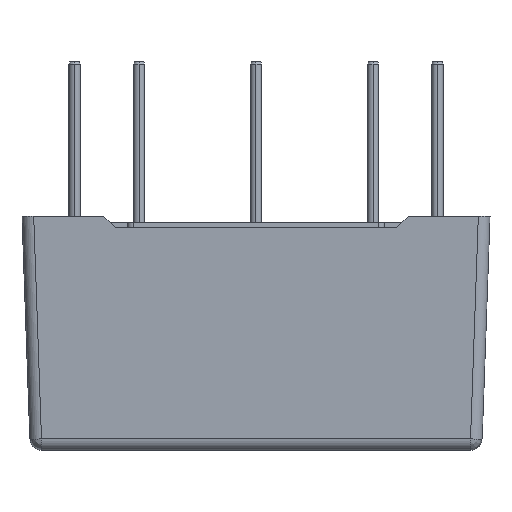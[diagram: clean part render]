
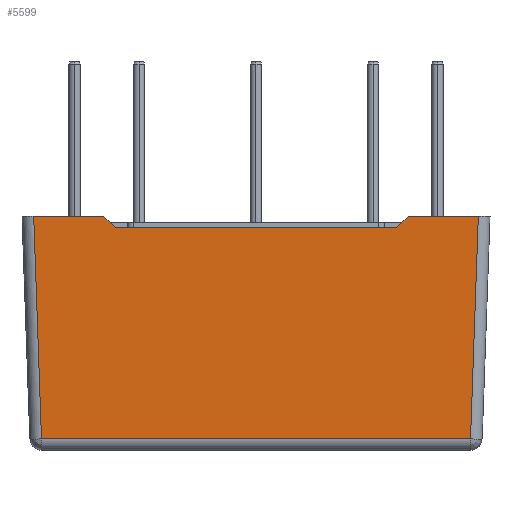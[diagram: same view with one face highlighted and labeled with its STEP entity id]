
A CAD part, left-side view. The second image highlights one B-rep face of the part: STEP entity #5599.
In plain terms, the highlighted planar face has unit normal (-0.999, 0, -0.035).
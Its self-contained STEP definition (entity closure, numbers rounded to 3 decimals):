
#517 = CARTESIAN_POINT ( 'NONE',  ( 0.698, 0., 0.012 ) ) ;
#755 = VECTOR ( 'NONE', #5980, 1000. ) ;
#825 = VECTOR ( 'NONE', #5468, 1000. ) ;
#971 = EDGE_CURVE ( 'NONE', #3416, #4916, #9168, .T. ) ;
#979 = VECTOR ( 'NONE', #2478, 1000. ) ;
#1093 = LINE ( 'NONE', #1445, #825 ) ;
#1125 = CARTESIAN_POINT ( 'NONE',  ( 0.035, 20., 19. ) ) ;
#1287 = ORIENTED_EDGE ( 'NONE', *, *, #7319, .F. ) ;
#1324 = PLANE ( 'NONE',  #2772 ) ;
#1355 = DIRECTION ( 'NONE',  ( -0.035, 0., 0.999 ) ) ;
#1445 = CARTESIAN_POINT ( 'NONE',  ( 0.665, 1.664, 0.965 ) ) ;
#1531 = ORIENTED_EDGE ( 'NONE', *, *, #5197, .T. ) ;
#1544 = VERTEX_POINT ( 'NONE', #1883 ) ;
#1749 = CARTESIAN_POINT ( 'NONE',  ( 0., 20., 20. ) ) ;
#1845 = VECTOR ( 'NONE', #8563, 1000. ) ;
#1883 = CARTESIAN_POINT ( 'NONE',  ( 0., 33., 20. ) ) ;
#2068 = VERTEX_POINT ( 'NONE', #9054 ) ;
#2072 = LINE ( 'NONE', #9561, #3688 ) ;
#2271 = DIRECTION ( 'NONE',  ( 0.025, -0.694, -0.719 ) ) ;
#2354 = CARTESIAN_POINT ( 'NONE',  ( 0.035, 32.034, 19. ) ) ;
#2478 = DIRECTION ( 'NONE',  ( 0., -1., 0. ) ) ;
#2555 = VERTEX_POINT ( 'NONE', #5559 ) ;
#2573 = CARTESIAN_POINT ( 'NONE',  ( 0., 20., 20. ) ) ;
#2597 = ORIENTED_EDGE ( 'NONE', *, *, #3113, .F. ) ;
#2772 = AXIS2_PLACEMENT_3D ( 'NONE', #517, #6217, #1355 ) ;
#3024 = VECTOR ( 'NONE', #2271, 1000. ) ;
#3113 = EDGE_CURVE ( 'NONE', #3546, #1544, #9269, .T. ) ;
#3162 = ORIENTED_EDGE ( 'NONE', *, *, #4129, .T. ) ;
#3389 = DIRECTION ( 'NONE',  ( 0., -1., 0. ) ) ;
#3416 = VERTEX_POINT ( 'NONE', #2354 ) ;
#3420 = LINE ( 'NONE', #4874, #979 ) ;
#3546 = VERTEX_POINT ( 'NONE', #5083 ) ;
#3682 = CARTESIAN_POINT ( 'NONE',  ( 0., 39.001, 20. ) ) ;
#3688 = VECTOR ( 'NONE', #4668, 1000. ) ;
#3888 = EDGE_CURVE ( 'NONE', #2555, #6782, #1093, .T. ) ;
#4031 = CARTESIAN_POINT ( 'NONE',  ( 0., 7., 20. ) ) ;
#4129 = EDGE_CURVE ( 'NONE', #3546, #2068, #10240, .T. ) ;
#4668 = DIRECTION ( 'NONE',  ( 0.025, 0.694, -0.719 ) ) ;
#4874 = CARTESIAN_POINT ( 'NONE',  ( 0.665, 0., 0.965 ) ) ;
#4916 = VERTEX_POINT ( 'NONE', #6772 ) ;
#4975 = DIRECTION ( 'NONE',  ( 0., -1., 0. ) ) ;
#5083 = CARTESIAN_POINT ( 'NONE',  ( 0., 39.001, 20. ) ) ;
#5197 = EDGE_CURVE ( 'NONE', #9056, #4916, #2072, .T. ) ;
#5468 = DIRECTION ( 'NONE',  ( -0.035, -0.035, 0.999 ) ) ;
#5559 = CARTESIAN_POINT ( 'NONE',  ( 0.665, 1.664, 0.965 ) ) ;
#5599 = ADVANCED_FACE ( 'NONE', ( #6540 ), #1324, .T. ) ;
#5920 = ORIENTED_EDGE ( 'NONE', *, *, #3888, .T. ) ;
#5980 = DIRECTION ( 'NONE',  ( 0., -1., 0. ) ) ;
#6066 = ORIENTED_EDGE ( 'NONE', *, *, #971, .F. ) ;
#6217 = DIRECTION ( 'NONE',  ( -0.999, 0., -0.035 ) ) ;
#6245 = ORIENTED_EDGE ( 'NONE', *, *, #8221, .T. ) ;
#6540 = FACE_OUTER_BOUND ( 'NONE', #8169, .T. ) ;
#6772 = CARTESIAN_POINT ( 'NONE',  ( 0.035, 7.966, 19. ) ) ;
#6782 = VERTEX_POINT ( 'NONE', #10354 ) ;
#7095 = CARTESIAN_POINT ( 'NONE',  ( 0., 33., 20. ) ) ;
#7316 = LINE ( 'NONE', #7095, #3024 ) ;
#7319 = EDGE_CURVE ( 'NONE', #1544, #3416, #7316, .T. ) ;
#7349 = VECTOR ( 'NONE', #4975, 1000. ) ;
#7423 = VECTOR ( 'NONE', #3389, 1000. ) ;
#8169 = EDGE_LOOP ( 'NONE', ( #5920, #9678, #1531, #6066, #1287, #2597, #3162, #6245 ) ) ;
#8221 = EDGE_CURVE ( 'NONE', #2068, #2555, #3420, .T. ) ;
#8563 = DIRECTION ( 'NONE',  ( 0.035, -0.035, -0.999 ) ) ;
#9054 = CARTESIAN_POINT ( 'NONE',  ( 0.665, 38.336, 0.965 ) ) ;
#9056 = VERTEX_POINT ( 'NONE', #4031 ) ;
#9168 = LINE ( 'NONE', #1125, #755 ) ;
#9269 = LINE ( 'NONE', #1749, #7349 ) ;
#9561 = CARTESIAN_POINT ( 'NONE',  ( 0., 7., 20. ) ) ;
#9590 = LINE ( 'NONE', #2573, #7423 ) ;
#9678 = ORIENTED_EDGE ( 'NONE', *, *, #10531, .F. ) ;
#10240 = LINE ( 'NONE', #3682, #1845 ) ;
#10354 = CARTESIAN_POINT ( 'NONE',  ( 0., 0.999, 20. ) ) ;
#10531 = EDGE_CURVE ( 'NONE', #9056, #6782, #9590, .T. ) ;
